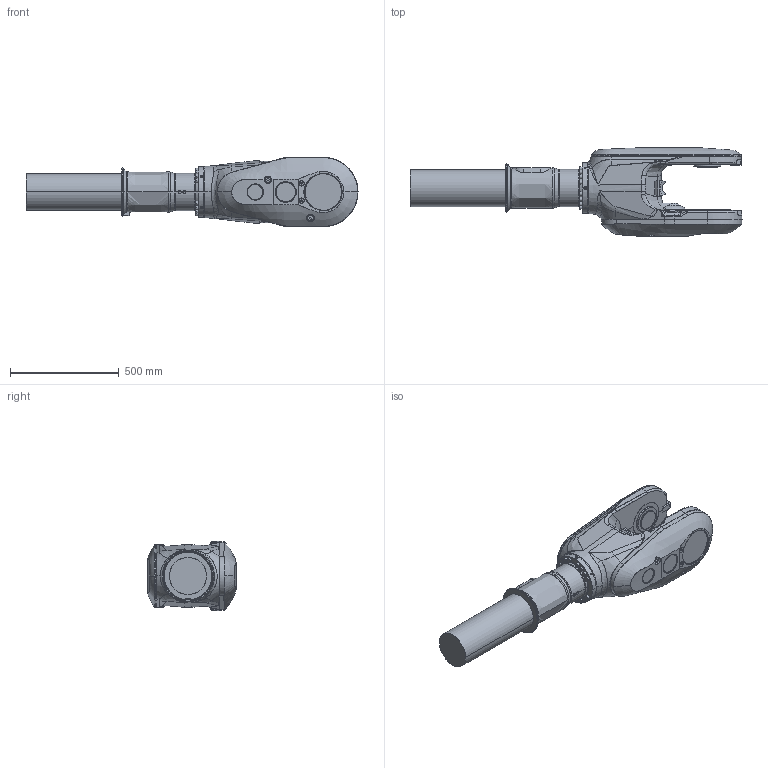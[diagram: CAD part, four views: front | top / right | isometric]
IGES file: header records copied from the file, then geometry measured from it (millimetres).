
Start section: SolidWorks IGES file using analytic representation for surfaces
Global section: file name: C:\Data\SAP_DOC\IRB6740_lightweight\6740_ASM\IRB6740_310kg-280_OC_02_SW_J\IRB6740_310kg-280_OC_02_IGES_J\IRB6740_310kg-280_OC_00_LINK04_CAD.igs; native system: SolidWorks 2024; preprocessor: SolidWorks 2024; author: SEJAOLS6; date: 260506.155157; units: millimetre
Bounding box: 1524.5 x 408.5 x 318 mm (x, y, z)
Surface area: 1548671.1 mm2 (no closed solid volume)
Topology: 0 solids, 0 shells, 809 faces, 14085 edges, 14056 vertices
Faces by surface type: bspline 485, revolution 324
